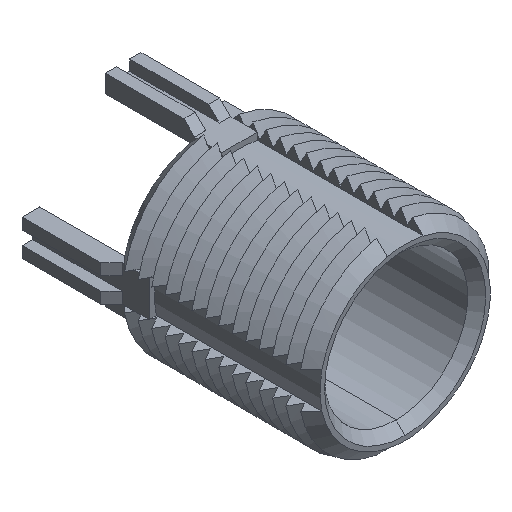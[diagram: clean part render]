
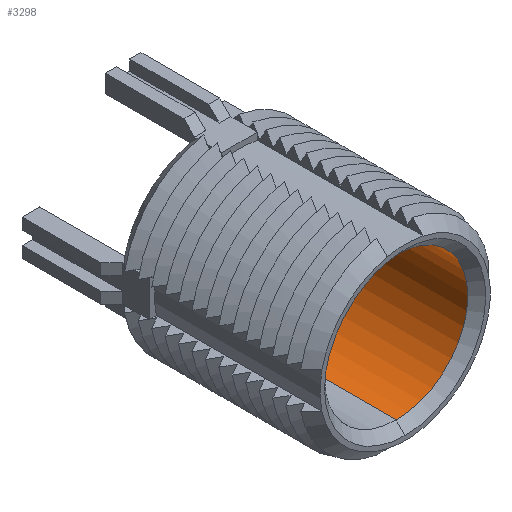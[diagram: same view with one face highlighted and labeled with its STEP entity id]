
A CAD part, isometric view. The second image highlights one B-rep face of the part: STEP entity #3298.
In plain terms, the highlighted cylindrical face has radius 8 mm (diameter 16 mm), a partial arc.
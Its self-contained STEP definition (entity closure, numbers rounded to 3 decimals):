
#36 = DIRECTION ( 'NONE',  ( 0., 1., 0. ) ) ;
#299 = CARTESIAN_POINT ( 'NONE',  ( 0., -44.627, 0. ) ) ;
#373 = EDGE_CURVE ( 'NONE', #2601, #3213, #5273, .T. ) ;
#780 = VERTEX_POINT ( 'NONE', #4703 ) ;
#1278 = CARTESIAN_POINT ( 'NONE',  ( 0., -44.627, 8. ) ) ;
#1341 = CYLINDRICAL_SURFACE ( 'NONE', #6287, 8. ) ;
#1540 = CARTESIAN_POINT ( 'NONE',  ( 0., -21., 0. ) ) ;
#1560 = CARTESIAN_POINT ( 'NONE',  ( 0., -44.627, -8. ) ) ;
#1578 = VECTOR ( 'NONE', #36, 1000. ) ;
#1601 = VECTOR ( 'NONE', #2856, 1000. ) ;
#1726 = CARTESIAN_POINT ( 'NONE',  ( 0., -21., 8. ) ) ;
#1829 = CARTESIAN_POINT ( 'NONE',  ( 0., -1., -8. ) ) ;
#2127 = EDGE_CURVE ( 'NONE', #780, #3213, #4224, .T. ) ;
#2497 = DIRECTION ( 'NONE',  ( 0., 0., 1. ) ) ;
#2601 = VERTEX_POINT ( 'NONE', #4454 ) ;
#2856 = DIRECTION ( 'NONE',  ( 0., 1., 0. ) ) ;
#3012 = DIRECTION ( 'NONE',  ( 0., 0., 1. ) ) ;
#3213 = VERTEX_POINT ( 'NONE', #1829 ) ;
#3298 = ADVANCED_FACE ( 'NONE', ( #3550 ), #1341, .F. ) ;
#3388 = EDGE_CURVE ( 'NONE', #780, #5918, #4059, .T. ) ;
#3415 = DIRECTION ( 'NONE',  ( 0., 1., 0. ) ) ;
#3481 = LINE ( 'NONE', #1278, #1601 ) ;
#3495 = AXIS2_PLACEMENT_3D ( 'NONE', #5205, #5235, #3012 ) ;
#3550 = FACE_OUTER_BOUND ( 'NONE', #5596, .T. ) ;
#3951 = EDGE_CURVE ( 'NONE', #5918, #2601, #3481, .T. ) ;
#4059 = CIRCLE ( 'NONE', #4952, 8. ) ;
#4224 = LINE ( 'NONE', #1560, #1578 ) ;
#4454 = CARTESIAN_POINT ( 'NONE',  ( 0., -1., 8. ) ) ;
#4703 = CARTESIAN_POINT ( 'NONE',  ( 0., -21., -8. ) ) ;
#4725 = DIRECTION ( 'NONE',  ( 0., -1., 0. ) ) ;
#4887 = ORIENTED_EDGE ( 'NONE', *, *, #3951, .T. ) ;
#4952 = AXIS2_PLACEMENT_3D ( 'NONE', #1540, #4725, #6434 ) ;
#5205 = CARTESIAN_POINT ( 'NONE',  ( 0., -1., 0. ) ) ;
#5235 = DIRECTION ( 'NONE',  ( 0., 1., 0. ) ) ;
#5273 = CIRCLE ( 'NONE', #3495, 8. ) ;
#5454 = ORIENTED_EDGE ( 'NONE', *, *, #2127, .F. ) ;
#5596 = EDGE_LOOP ( 'NONE', ( #5454, #6174, #4887, #6423 ) ) ;
#5918 = VERTEX_POINT ( 'NONE', #1726 ) ;
#6174 = ORIENTED_EDGE ( 'NONE', *, *, #3388, .T. ) ;
#6287 = AXIS2_PLACEMENT_3D ( 'NONE', #299, #3415, #2497 ) ;
#6423 = ORIENTED_EDGE ( 'NONE', *, *, #373, .T. ) ;
#6434 = DIRECTION ( 'NONE',  ( 0., 0., 1. ) ) ;
